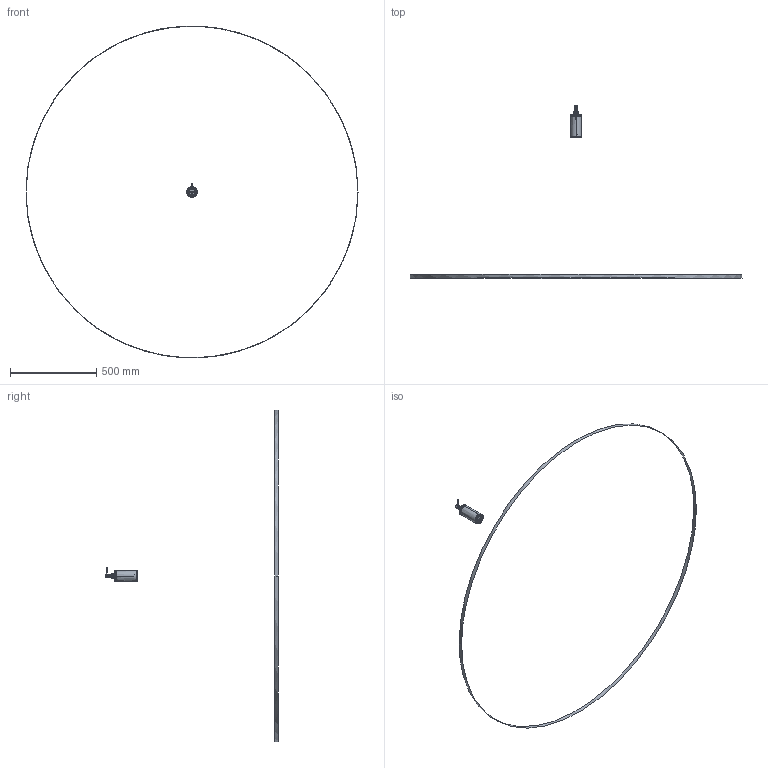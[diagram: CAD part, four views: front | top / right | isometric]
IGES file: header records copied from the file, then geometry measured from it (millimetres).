
Start section: SolidWorks IGES file using analytic representation for surfaces
Global section: file name: G:\Projects\New project\For Marketing\Cosmic\For DXF and IGS\new IGS\2050104VW.IGS; native system: SolidWorks 2010; preprocessor: SolidWorks 2010; author: linda; date: 150720.160757; units: millimetre
Bounding box: 1922.4 x 1000.31 x 1921.53 mm (x, y, z)
Surface area: 267169.7 mm2 (no closed solid volume)
Topology: 0 solids, 0 shells, 2081 faces, 21892 edges, 21844 vertices
Faces by surface type: bspline 1225, revolution 856
